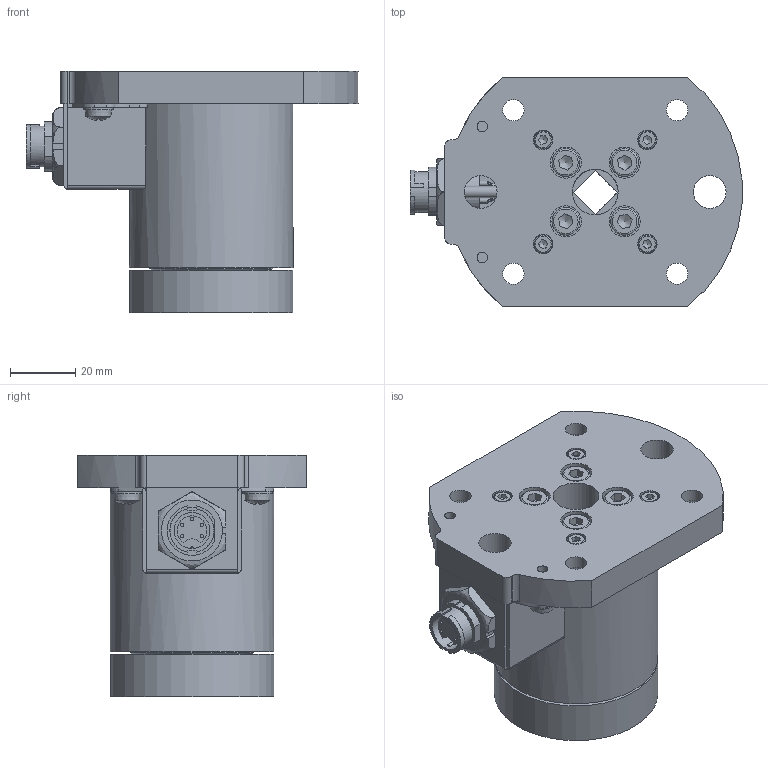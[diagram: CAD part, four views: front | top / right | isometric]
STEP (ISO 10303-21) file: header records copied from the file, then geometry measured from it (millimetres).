
FILE_DESCRIPTION((''),'2;1');
FILE_NAME('M:\Dokumentacja\RYSUNKI\PROTOTYPY\DAREK\! SIŁOMIERZ\SKRĘTNY\FSC - 100 Nm - zespół belki.stp','2017-02-24T08:31:58',('Darek'),(''),'Autodesk Inventor 11','Autodesk Inventor 11','');
FILE_SCHEMA(('AUTOMOTIVE_DESIGN { 1 0 10303 214 1 1 1 1 }'));
Length unit declared in the file: millimetre
Products named in the file (1): Część4
Bounding box: 101.45 x 70 x 73.8 mm (x, y, z)
Volume: 147568.6 mm3; surface area: 61004.2 mm2
Topology: 5 solids, 25 shells, 719 faces, 1782 edges, 1169 vertices
Faces by surface type: plane 404, cylinder 146, bspline 90, cone 54, torus 23, sphere 2
Full cylindrical faces by diameter (mm): 1 x10, 1.5 x5, 3 x4, 3.5 x3, 3.65 x2, 4 x2, 4.3 x2, 5 x12, 5.5 x4, 5.9 x4, 8.5 x8, 9 x2, 11 x1, 12.5 x1, 13.5 x1, 14 x2, 14.7 x2, 25 x1, 37.6 x2, 40 x1, 50 x2
Entity records: 21283 total; most frequent: CARTESIAN_POINT 5891, DIRECTION 3126, ORIENTED_EDGE 2968, EDGE_CURVE 1484, AXIS2_PLACEMENT_3D 1228, VERTEX_POINT 1059, EDGE_LOOP 1021, FACE_OUTER_BOUND 719
